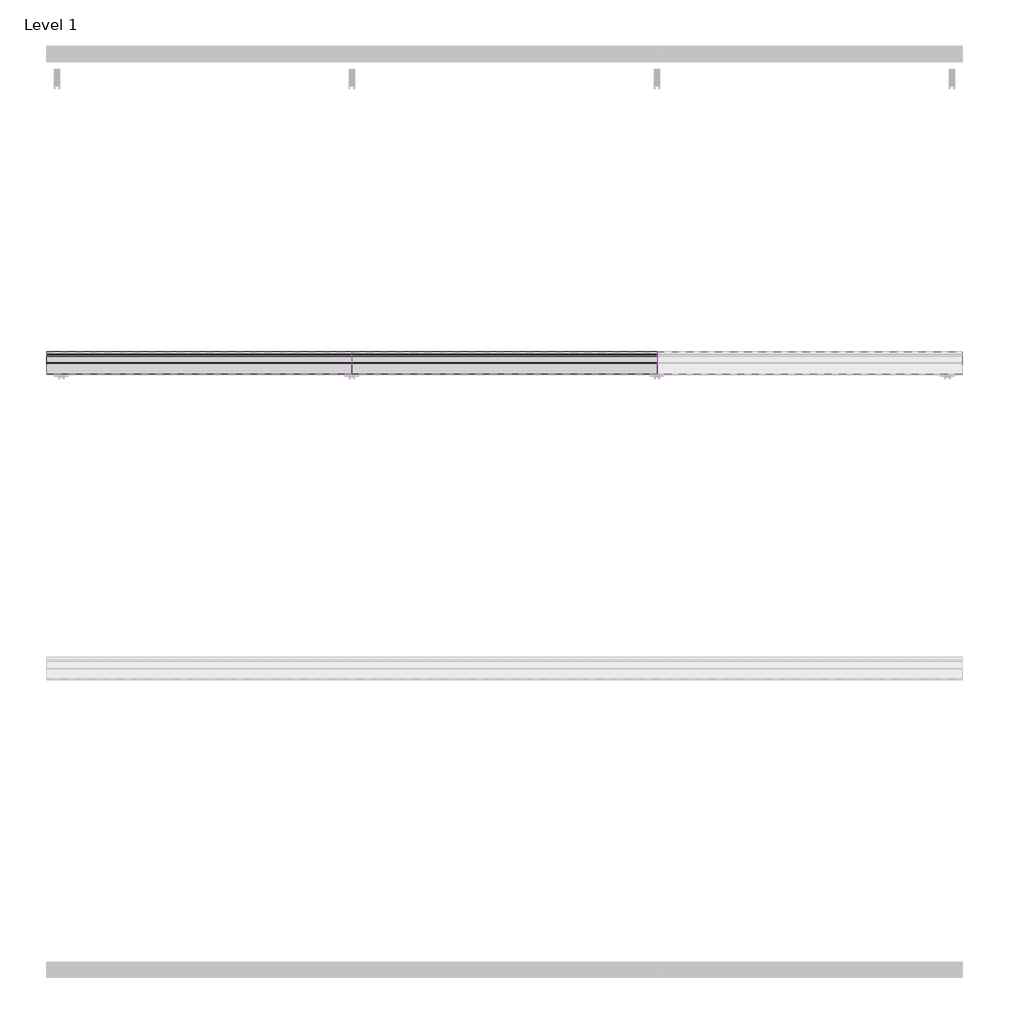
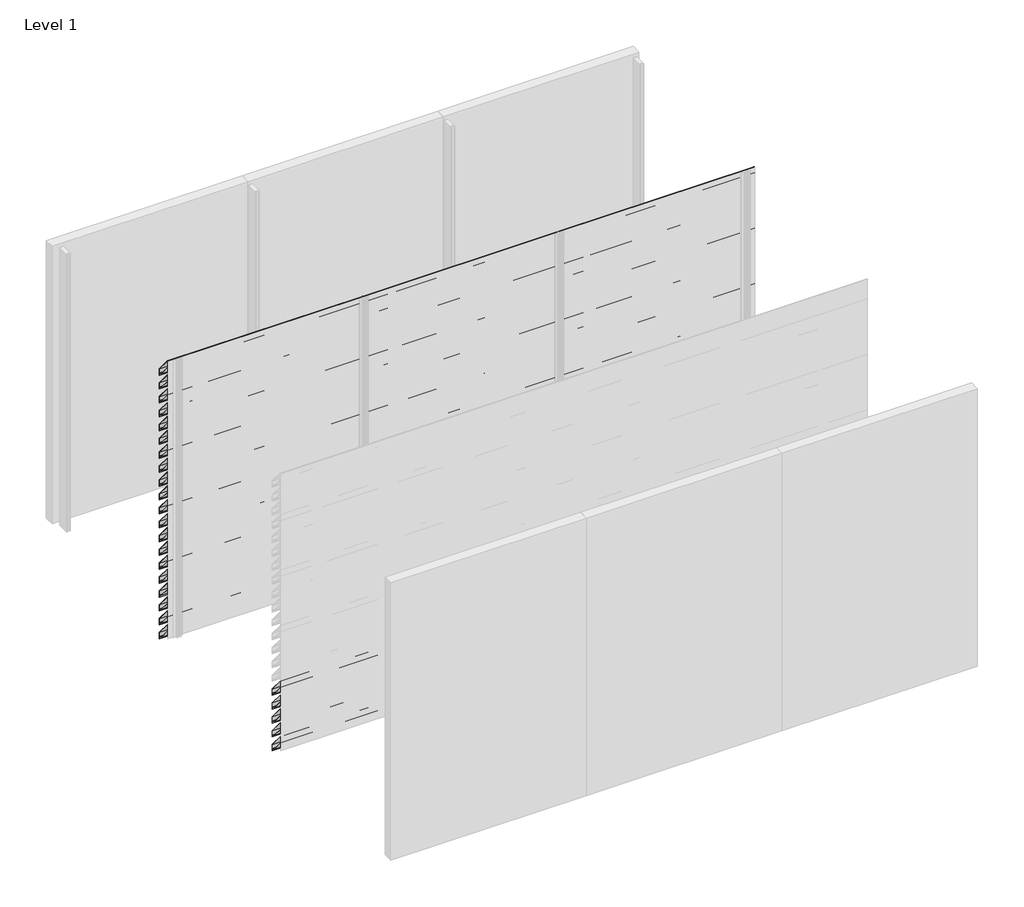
# One storey, part 3 of 16: 56 proxies.
"""IFC4 building model written with IfcOpenShell, lengths in millimetres."""

from ifc_helpers import new_model, si_unit, frame, origin, place, context, project, spatial, polyline, outline, extrude, element, save

model = new_model("IFC4")

# Units and contexts
model_context = context("Model", 3, world=origin())
ifc_project = project(units=[si_unit("LENGTHUNIT", "METRE", prefix="MILLI")], contexts=[model_context])

# Site, building, storey
site = spatial("IfcSite", under=ifc_project)
building = spatial("IfcBuilding", under=site)
storey = spatial("IfcBuildingStorey", under=building, Name="Level 1", Elevation=0.0)

# Proxies
placement = place(None, origin())
element("IfcBuildingElementProxy", 1, Name="Wall Sweeps", at=placement, inside=storey, context=model_context, shape_type="SweptSolid", body=[
    extrude(outline(polyline([(-53851.0, 2830.0), (-53851.0, 2761.0), (-53853.5, 2762.1657691), (-53853.5, 2775.7059843), (-53870.2498671, 2795.6676986), (-53880.9351065, 2795.6676986), (-53998.0, 2935.1802059), (-53998.0, 3000.0), (-53993.6469373, 3000.0), (-53851.0, 2830.0)]), holes=[polyline([(-53996.1, 2998.1), (-53996.1, 2935.8717493), (-53880.049122, 2797.5676986), (-53869.3638825, 2797.5676986), (-53852.9, 2777.9468074), (-53852.9, 2829.3084566), (-53994.5329219, 2998.1), (-53996.1, 2998.1)])]), frame((0.0, 0.0, 0.0), z_axis=(1.0, 0.0, 0.0), x_axis=(0.0, 1.0, 0.0)), (0.0, 0.0, 1.0), 2000.0),
])
element("IfcBuildingElementProxy", 2, Name="Wall Sweeps", at=placement, inside=storey, context=model_context, shape_type="SweptSolid", body=[
    extrude(outline(polyline([(-53851.0, 2680.0), (-53851.0, 2611.0), (-53853.5, 2612.1657691), (-53853.5, 2625.7059843), (-53870.2498671, 2645.6676986), (-53880.9351065, 2645.6676986), (-53998.0, 2785.1802059), (-53998.0, 2850.0), (-53993.6469373, 2850.0), (-53851.0, 2680.0)]), holes=[polyline([(-53996.1, 2848.1), (-53996.1, 2785.8717493), (-53880.049122, 2647.5676986), (-53869.3638825, 2647.5676986), (-53852.9, 2627.9468074), (-53852.9, 2679.3084566), (-53994.5329219, 2848.1), (-53996.1, 2848.1)])]), frame((0.0, 0.0, 0.0), z_axis=(1.0, 0.0, 0.0), x_axis=(0.0, 1.0, 0.0)), (0.0, 0.0, 1.0), 2000.0),
])
element("IfcBuildingElementProxy", 3, Name="Wall Sweeps", at=placement, inside=storey, context=model_context, shape_type="SweptSolid", body=[
    extrude(outline(polyline([(-53851.0, 2530.0), (-53851.0, 2461.0), (-53853.5, 2462.1657691), (-53853.5, 2475.7059843), (-53870.2498671, 2495.6676986), (-53880.9351065, 2495.6676986), (-53998.0, 2635.1802059), (-53998.0, 2700.0), (-53993.6469373, 2700.0), (-53851.0, 2530.0)]), holes=[polyline([(-53996.1, 2698.1), (-53996.1, 2635.8717493), (-53880.049122, 2497.5676986), (-53869.3638825, 2497.5676986), (-53852.9, 2477.9468074), (-53852.9, 2529.3084566), (-53994.5329219, 2698.1), (-53996.1, 2698.1)])]), frame((0.0, 0.0, 0.0), z_axis=(1.0, 0.0, 0.0), x_axis=(0.0, 1.0, 0.0)), (0.0, 0.0, 1.0), 2000.0),
])
element("IfcBuildingElementProxy", 4, Name="Wall Sweeps", at=placement, inside=storey, context=model_context, shape_type="SweptSolid", body=[
    extrude(outline(polyline([(-53851.0, 2380.0), (-53851.0, 2311.0), (-53853.5, 2312.1657691), (-53853.5, 2325.7059843), (-53870.2498671, 2345.6676986), (-53880.9351065, 2345.6676986), (-53998.0, 2485.1802059), (-53998.0, 2550.0), (-53993.6469373, 2550.0), (-53851.0, 2380.0)]), holes=[polyline([(-53996.1, 2548.1), (-53996.1, 2485.8717493), (-53880.049122, 2347.5676986), (-53869.3638825, 2347.5676986), (-53852.9, 2327.9468074), (-53852.9, 2379.3084566), (-53994.5329219, 2548.1), (-53996.1, 2548.1)])]), frame((0.0, 0.0, 0.0), z_axis=(1.0, 0.0, 0.0), x_axis=(0.0, 1.0, 0.0)), (0.0, 0.0, 1.0), 2000.0),
])
element("IfcBuildingElementProxy", 5, Name="Wall Sweeps", at=placement, inside=storey, context=model_context, shape_type="SweptSolid", body=[
    extrude(outline(polyline([(-53851.0, 2230.0), (-53851.0, 2161.0), (-53853.5, 2162.1657691), (-53853.5, 2175.7059843), (-53870.2498671, 2195.6676986), (-53880.9351065, 2195.6676986), (-53998.0, 2335.1802059), (-53998.0, 2400.0), (-53993.6469373, 2400.0), (-53851.0, 2230.0)]), holes=[polyline([(-53996.1, 2398.1), (-53996.1, 2335.8717493), (-53880.049122, 2197.5676986), (-53869.3638825, 2197.5676986), (-53852.9, 2177.9468074), (-53852.9, 2229.3084566), (-53994.5329219, 2398.1), (-53996.1, 2398.1)])]), frame((0.0, 0.0, 0.0), z_axis=(1.0, 0.0, 0.0), x_axis=(0.0, 1.0, 0.0)), (0.0, 0.0, 1.0), 2000.0),
])
element("IfcBuildingElementProxy", 6, Name="Wall Sweeps", at=placement, inside=storey, context=model_context, shape_type="SweptSolid", body=[
    extrude(outline(polyline([(-53851.0, 2080.0), (-53851.0, 2011.0), (-53853.5, 2012.1657691), (-53853.5, 2025.7059843), (-53870.2498671, 2045.6676986), (-53880.9351065, 2045.6676986), (-53998.0, 2185.1802059), (-53998.0, 2250.0), (-53993.6469373, 2250.0), (-53851.0, 2080.0)]), holes=[polyline([(-53996.1, 2248.1), (-53996.1, 2185.8717493), (-53880.049122, 2047.5676986), (-53869.3638825, 2047.5676986), (-53852.9, 2027.9468074), (-53852.9, 2079.3084566), (-53994.5329219, 2248.1), (-53996.1, 2248.1)])]), frame((0.0, 0.0, 0.0), z_axis=(1.0, 0.0, 0.0), x_axis=(0.0, 1.0, 0.0)), (0.0, 0.0, 1.0), 2000.0),
])
element("IfcBuildingElementProxy", 7, Name="Wall Sweeps", at=placement, inside=storey, context=model_context, shape_type="SweptSolid", body=[
    extrude(outline(polyline([(-53851.0, 1930.0), (-53851.0, 1861.0), (-53853.5, 1862.1657691), (-53853.5, 1875.7059843), (-53870.2498671, 1895.6676986), (-53880.9351065, 1895.6676986), (-53998.0, 2035.1802059), (-53998.0, 2100.0), (-53993.6469373, 2100.0), (-53851.0, 1930.0)]), holes=[polyline([(-53996.1, 2098.1), (-53996.1, 2035.8717493), (-53880.049122, 1897.5676986), (-53869.3638825, 1897.5676986), (-53852.9, 1877.9468074), (-53852.9, 1929.3084566), (-53994.5329219, 2098.1), (-53996.1, 2098.1)])]), frame((0.0, 0.0, 0.0), z_axis=(1.0, 0.0, 0.0), x_axis=(0.0, 1.0, 0.0)), (0.0, 0.0, 1.0), 2000.0),
])
element("IfcBuildingElementProxy", 8, Name="Wall Sweeps", at=placement, inside=storey, context=model_context, shape_type="SweptSolid", body=[
    extrude(outline(polyline([(-53851.0, 1780.0), (-53851.0, 1711.0), (-53853.5, 1712.1657691), (-53853.5, 1725.7059843), (-53870.2498671, 1745.6676986), (-53880.9351065, 1745.6676986), (-53998.0, 1885.1802059), (-53998.0, 1950.0), (-53993.6469373, 1950.0), (-53851.0, 1780.0)]), holes=[polyline([(-53996.1, 1948.1), (-53996.1, 1885.8717493), (-53880.049122, 1747.5676986), (-53869.3638825, 1747.5676986), (-53852.9, 1727.9468074), (-53852.9, 1779.3084566), (-53994.5329219, 1948.1), (-53996.1, 1948.1)])]), frame((0.0, 0.0, 0.0), z_axis=(1.0, 0.0, 0.0), x_axis=(0.0, 1.0, 0.0)), (0.0, 0.0, 1.0), 2000.0),
])
element("IfcBuildingElementProxy", 9, Name="Wall Sweeps", at=placement, inside=storey, context=model_context, shape_type="SweptSolid", body=[
    extrude(outline(polyline([(-53851.0, 1630.0), (-53851.0, 1561.0), (-53853.5, 1562.1657691), (-53853.5, 1575.7059843), (-53870.2498671, 1595.6676986), (-53880.9351065, 1595.6676986), (-53998.0, 1735.1802059), (-53998.0, 1800.0), (-53993.6469373, 1800.0), (-53851.0, 1630.0)]), holes=[polyline([(-53996.1, 1798.1), (-53996.1, 1735.8717493), (-53880.049122, 1597.5676986), (-53869.3638825, 1597.5676986), (-53852.9, 1577.9468074), (-53852.9, 1629.3084566), (-53994.5329219, 1798.1), (-53996.1, 1798.1)])]), frame((0.0, 0.0, 0.0), z_axis=(1.0, 0.0, 0.0), x_axis=(0.0, 1.0, 0.0)), (0.0, 0.0, 1.0), 2000.0),
])
element("IfcBuildingElementProxy", 10, Name="Wall Sweeps", at=placement, inside=storey, context=model_context, shape_type="SweptSolid", body=[
    extrude(outline(polyline([(-53851.0, 1480.0), (-53851.0, 1411.0), (-53853.5, 1412.1657691), (-53853.5, 1425.7059843), (-53870.2498671, 1445.6676986), (-53880.9351065, 1445.6676986), (-53998.0, 1585.1802059), (-53998.0, 1650.0), (-53993.6469373, 1650.0), (-53851.0, 1480.0)]), holes=[polyline([(-53996.1, 1648.1), (-53996.1, 1585.8717493), (-53880.049122, 1447.5676986), (-53869.3638825, 1447.5676986), (-53852.9, 1427.9468074), (-53852.9, 1479.3084566), (-53994.5329219, 1648.1), (-53996.1, 1648.1)])]), frame((0.0, 0.0, 0.0), z_axis=(1.0, 0.0, 0.0), x_axis=(0.0, 1.0, 0.0)), (0.0, 0.0, 1.0), 2000.0),
])
element("IfcBuildingElementProxy", 11, Name="Wall Sweeps", at=placement, inside=storey, context=model_context, shape_type="SweptSolid", body=[
    extrude(outline(polyline([(-53851.0, 1330.0), (-53851.0, 1261.0), (-53853.5, 1262.1657691), (-53853.5, 1275.7059843), (-53870.2498671, 1295.6676986), (-53880.9351065, 1295.6676986), (-53998.0, 1435.1802059), (-53998.0, 1500.0), (-53993.6469373, 1500.0), (-53851.0, 1330.0)]), holes=[polyline([(-53996.1, 1498.1), (-53996.1, 1435.8717493), (-53880.049122, 1297.5676986), (-53869.3638825, 1297.5676986), (-53852.9, 1277.9468074), (-53852.9, 1329.3084566), (-53994.5329219, 1498.1), (-53996.1, 1498.1)])]), frame((0.0, 0.0, 0.0), z_axis=(1.0, 0.0, 0.0), x_axis=(0.0, 1.0, 0.0)), (0.0, 0.0, 1.0), 2000.0),
])
element("IfcBuildingElementProxy", 12, Name="Wall Sweeps", at=placement, inside=storey, context=model_context, shape_type="SweptSolid", body=[
    extrude(outline(polyline([(-53851.0, 1180.0), (-53851.0, 1111.0), (-53853.5, 1112.1657691), (-53853.5, 1125.7059843), (-53870.2498671, 1145.6676986), (-53880.9351065, 1145.6676986), (-53998.0, 1285.1802059), (-53998.0, 1350.0), (-53993.6469373, 1350.0), (-53851.0, 1180.0)]), holes=[polyline([(-53996.1, 1348.1), (-53996.1, 1285.8717493), (-53880.049122, 1147.5676986), (-53869.3638825, 1147.5676986), (-53852.9, 1127.9468074), (-53852.9, 1179.3084566), (-53994.5329219, 1348.1), (-53996.1, 1348.1)])]), frame((0.0, 0.0, 0.0), z_axis=(1.0, 0.0, 0.0), x_axis=(0.0, 1.0, 0.0)), (0.0, 0.0, 1.0), 2000.0),
])
element("IfcBuildingElementProxy", 13, Name="Wall Sweeps", at=placement, inside=storey, context=model_context, shape_type="SweptSolid", body=[
    extrude(outline(polyline([(-53851.0, 1030.0), (-53851.0, 961.0), (-53853.5, 962.1657691), (-53853.5, 975.7059843), (-53870.2498671, 995.6676986), (-53880.9351065, 995.6676986), (-53998.0, 1135.1802059), (-53998.0, 1200.0), (-53993.6469373, 1200.0), (-53851.0, 1030.0)]), holes=[polyline([(-53996.1, 1198.1), (-53996.1, 1135.8717493), (-53880.049122, 997.5676986), (-53869.3638825, 997.5676986), (-53852.9, 977.9468074), (-53852.9, 1029.3084566), (-53994.5329219, 1198.1), (-53996.1, 1198.1)])]), frame((0.0, 0.0, 0.0), z_axis=(1.0, 0.0, 0.0), x_axis=(0.0, 1.0, 0.0)), (0.0, 0.0, 1.0), 2000.0),
])
element("IfcBuildingElementProxy", 14, Name="Wall Sweeps", at=placement, inside=storey, context=model_context, shape_type="SweptSolid", body=[
    extrude(outline(polyline([(-53851.0, 880.0), (-53851.0, 811.0), (-53853.5, 812.1657691), (-53853.5, 825.7059843), (-53870.2498671, 845.6676986), (-53880.9351065, 845.6676986), (-53998.0, 985.1802059), (-53998.0, 1050.0), (-53993.6469373, 1050.0), (-53851.0, 880.0)]), holes=[polyline([(-53996.1, 1048.1), (-53996.1, 985.8717493), (-53880.049122, 847.5676986), (-53869.3638825, 847.5676986), (-53852.9, 827.9468074), (-53852.9, 879.3084566), (-53994.5329219, 1048.1), (-53996.1, 1048.1)])]), frame((0.0, 0.0, 0.0), z_axis=(1.0, 0.0, 0.0), x_axis=(0.0, 1.0, 0.0)), (0.0, 0.0, 1.0), 2000.0),
])
element("IfcBuildingElementProxy", 15, Name="Wall Sweeps", at=placement, inside=storey, context=model_context, shape_type="SweptSolid", body=[
    extrude(outline(polyline([(-53851.0, 730.0), (-53851.0, 661.0), (-53853.5, 662.1657691), (-53853.5, 675.7059843), (-53870.2498671, 695.6676986), (-53880.9351065, 695.6676986), (-53998.0, 835.1802059), (-53998.0, 900.0), (-53993.6469373, 900.0), (-53851.0, 730.0)]), holes=[polyline([(-53996.1, 898.1), (-53996.1, 835.8717493), (-53880.049122, 697.5676986), (-53869.3638825, 697.5676986), (-53852.9, 677.9468074), (-53852.9, 729.3084566), (-53994.5329219, 898.1), (-53996.1, 898.1)])]), frame((0.0, 0.0, 0.0), z_axis=(1.0, 0.0, 0.0), x_axis=(0.0, 1.0, 0.0)), (0.0, 0.0, 1.0), 2000.0),
])
element("IfcBuildingElementProxy", 16, Name="Wall Sweeps", at=placement, inside=storey, context=model_context, shape_type="SweptSolid", body=[
    extrude(outline(polyline([(-53851.0, 580.0), (-53851.0, 511.0), (-53853.5, 512.1657691), (-53853.5, 525.7059843), (-53870.2498671, 545.6676986), (-53880.9351065, 545.6676986), (-53998.0, 685.1802059), (-53998.0, 750.0), (-53993.6469373, 750.0), (-53851.0, 580.0)]), holes=[polyline([(-53996.1, 748.1), (-53996.1, 685.8717493), (-53880.049122, 547.5676986), (-53869.3638825, 547.5676986), (-53852.9, 527.9468074), (-53852.9, 579.3084566), (-53994.5329219, 748.1), (-53996.1, 748.1)])]), frame((0.0, 0.0, 0.0), z_axis=(1.0, 0.0, 0.0), x_axis=(0.0, 1.0, 0.0)), (0.0, 0.0, 1.0), 2000.0),
])
element("IfcBuildingElementProxy", 17, Name="Wall Sweeps", at=placement, inside=storey, context=model_context, shape_type="SweptSolid", body=[
    extrude(outline(polyline([(-53851.0, 430.0), (-53851.0, 361.0), (-53853.5, 362.1657691), (-53853.5, 375.7059843), (-53870.2498671, 395.6676986), (-53880.9351065, 395.6676986), (-53998.0, 535.1802059), (-53998.0, 600.0), (-53993.6469373, 600.0), (-53851.0, 430.0)]), holes=[polyline([(-53996.1, 598.1), (-53996.1, 535.8717493), (-53880.049122, 397.5676986), (-53869.3638825, 397.5676986), (-53852.9, 377.9468074), (-53852.9, 429.3084566), (-53994.5329219, 598.1), (-53996.1, 598.1)])]), frame((0.0, 0.0, 0.0), z_axis=(1.0, 0.0, 0.0), x_axis=(0.0, 1.0, 0.0)), (0.0, 0.0, 1.0), 2000.0),
])
element("IfcBuildingElementProxy", 18, Name="Wall Sweeps", at=placement, inside=storey, context=model_context, shape_type="SweptSolid", body=[
    extrude(outline(polyline([(-53851.0, 280.0), (-53851.0, 211.0), (-53853.5, 212.1657691), (-53853.5, 225.7059843), (-53870.2498671, 245.6676986), (-53880.9351065, 245.6676986), (-53998.0, 385.1802059), (-53998.0, 450.0), (-53993.6469373, 450.0), (-53851.0, 280.0)]), holes=[polyline([(-53996.1, 448.1), (-53996.1, 385.8717493), (-53880.049122, 247.5676986), (-53869.3638825, 247.5676986), (-53852.9, 227.9468074), (-53852.9, 279.3084566), (-53994.5329219, 448.1), (-53996.1, 448.1)])]), frame((0.0, 0.0, 0.0), z_axis=(1.0, 0.0, 0.0), x_axis=(0.0, 1.0, 0.0)), (0.0, 0.0, 1.0), 2000.0),
])
element("IfcBuildingElementProxy", 19, Name="Wall Sweeps", at=placement, inside=storey, context=model_context, shape_type="SweptSolid", body=[
    extrude(outline(polyline([(-53851.0, 130.0), (-53851.0, 61.0), (-53853.5, 62.1657691), (-53853.5, 75.7059843), (-53870.2498671, 95.6676986), (-53880.9351065, 95.6676986), (-53998.0, 235.1802059), (-53998.0, 300.0), (-53993.6469373, 300.0), (-53851.0, 130.0)]), holes=[polyline([(-53996.1, 298.1), (-53996.1, 235.8717493), (-53880.049122, 97.5676986), (-53869.3638825, 97.5676986), (-53852.9, 77.9468074), (-53852.9, 129.3084566), (-53994.5329219, 298.1), (-53996.1, 298.1)])]), frame((0.0, 0.0, 0.0), z_axis=(1.0, 0.0, 0.0), x_axis=(0.0, 1.0, 0.0)), (0.0, 0.0, 1.0), 2000.0),
])
element("IfcBuildingElementProxy", 20, Name="Wall Sweeps", at=placement, inside=storey, context=model_context, shape_type="SweptSolid", body=[
    extrude(outline(polyline([(-53851.0, -20.0), (-53851.0, -89.0), (-53853.5, -87.8342309), (-53853.5, -74.2940157), (-53870.2498671, -54.3323014), (-53880.9351065, -54.3323014), (-53998.0, 85.1802059), (-53998.0, 150.0), (-53993.6469373, 150.0), (-53851.0, -20.0)]), holes=[polyline([(-53996.1, 148.1), (-53996.1, 85.8717493), (-53880.049122, -52.4323014), (-53869.3638825, -52.4323014), (-53852.9, -72.0531926), (-53852.9, -20.6915434), (-53994.5329219, 148.1), (-53996.1, 148.1)])]), frame((0.0, 0.0, 0.0), z_axis=(1.0, 0.0, 0.0), x_axis=(0.0, 1.0, 0.0)), (0.0, 0.0, 1.0), 2000.0),
])
element("IfcBuildingElementProxy", 21, Name="Wall Sweeps", at=placement, inside=storey, context=model_context, shape_type="SweptSolid", body=[
    extrude(outline(polyline([(-53851.0, 2830.0), (-53851.0, 2761.0), (-53853.5, 2762.1657691), (-53853.5, 2775.7059843), (-53870.2498671, 2795.6676986), (-53880.9351065, 2795.6676986), (-53998.0, 2935.1802059), (-53998.0, 3000.0), (-53993.6469373, 3000.0), (-53851.0, 2830.0)]), holes=[polyline([(-53996.1, 2998.1), (-53996.1, 2935.8717493), (-53880.049122, 2797.5676986), (-53869.3638825, 2797.5676986), (-53852.9, 2777.9468074), (-53852.9, 2829.3084566), (-53994.5329219, 2998.1), (-53996.1, 2998.1)])]), frame((2000.0, 0.0, 0.0), z_axis=(1.0, 0.0, 0.0), x_axis=(0.0, 1.0, 0.0)), (0.0, 0.0, 1.0), 2000.0),
])
element("IfcBuildingElementProxy", 22, Name="Wall Sweeps", at=placement, inside=storey, context=model_context, shape_type="SweptSolid", body=[
    extrude(outline(polyline([(-53851.0, 2680.0), (-53851.0, 2611.0), (-53853.5, 2612.1657691), (-53853.5, 2625.7059843), (-53870.2498671, 2645.6676986), (-53880.9351065, 2645.6676986), (-53998.0, 2785.1802059), (-53998.0, 2850.0), (-53993.6469373, 2850.0), (-53851.0, 2680.0)]), holes=[polyline([(-53996.1, 2848.1), (-53996.1, 2785.8717493), (-53880.049122, 2647.5676986), (-53869.3638825, 2647.5676986), (-53852.9, 2627.9468074), (-53852.9, 2679.3084566), (-53994.5329219, 2848.1), (-53996.1, 2848.1)])]), frame((2000.0, 0.0, 0.0), z_axis=(1.0, 0.0, 0.0), x_axis=(0.0, 1.0, 0.0)), (0.0, 0.0, 1.0), 2000.0),
])
element("IfcBuildingElementProxy", 23, Name="Wall Sweeps", at=placement, inside=storey, context=model_context, shape_type="SweptSolid", body=[
    extrude(outline(polyline([(-53851.0, 2530.0), (-53851.0, 2461.0), (-53853.5, 2462.1657691), (-53853.5, 2475.7059843), (-53870.2498671, 2495.6676986), (-53880.9351065, 2495.6676986), (-53998.0, 2635.1802059), (-53998.0, 2700.0), (-53993.6469373, 2700.0), (-53851.0, 2530.0)]), holes=[polyline([(-53996.1, 2698.1), (-53996.1, 2635.8717493), (-53880.049122, 2497.5676986), (-53869.3638825, 2497.5676986), (-53852.9, 2477.9468074), (-53852.9, 2529.3084566), (-53994.5329219, 2698.1), (-53996.1, 2698.1)])]), frame((2000.0, 0.0, 0.0), z_axis=(1.0, 0.0, 0.0), x_axis=(0.0, 1.0, 0.0)), (0.0, 0.0, 1.0), 2000.0),
])
element("IfcBuildingElementProxy", 24, Name="Wall Sweeps", at=placement, inside=storey, context=model_context, shape_type="SweptSolid", body=[
    extrude(outline(polyline([(-53851.0, 2380.0), (-53851.0, 2311.0), (-53853.5, 2312.1657691), (-53853.5, 2325.7059843), (-53870.2498671, 2345.6676986), (-53880.9351065, 2345.6676986), (-53998.0, 2485.1802059), (-53998.0, 2550.0), (-53993.6469373, 2550.0), (-53851.0, 2380.0)]), holes=[polyline([(-53996.1, 2548.1), (-53996.1, 2485.8717493), (-53880.049122, 2347.5676986), (-53869.3638825, 2347.5676986), (-53852.9, 2327.9468074), (-53852.9, 2379.3084566), (-53994.5329219, 2548.1), (-53996.1, 2548.1)])]), frame((2000.0, 0.0, 0.0), z_axis=(1.0, 0.0, 0.0), x_axis=(0.0, 1.0, 0.0)), (0.0, 0.0, 1.0), 2000.0),
])
element("IfcBuildingElementProxy", 25, Name="Wall Sweeps", at=placement, inside=storey, context=model_context, shape_type="SweptSolid", body=[
    extrude(outline(polyline([(-53851.0, 2230.0), (-53851.0, 2161.0), (-53853.5, 2162.1657691), (-53853.5, 2175.7059843), (-53870.2498671, 2195.6676986), (-53880.9351065, 2195.6676986), (-53998.0, 2335.1802059), (-53998.0, 2400.0), (-53993.6469373, 2400.0), (-53851.0, 2230.0)]), holes=[polyline([(-53996.1, 2398.1), (-53996.1, 2335.8717493), (-53880.049122, 2197.5676986), (-53869.3638825, 2197.5676986), (-53852.9, 2177.9468074), (-53852.9, 2229.3084566), (-53994.5329219, 2398.1), (-53996.1, 2398.1)])]), frame((2000.0, 0.0, 0.0), z_axis=(1.0, 0.0, 0.0), x_axis=(0.0, 1.0, 0.0)), (0.0, 0.0, 1.0), 2000.0),
])
element("IfcBuildingElementProxy", 26, Name="Wall Sweeps", at=placement, inside=storey, context=model_context, shape_type="SweptSolid", body=[
    extrude(outline(polyline([(-53851.0, 2080.0), (-53851.0, 2011.0), (-53853.5, 2012.1657691), (-53853.5, 2025.7059843), (-53870.2498671, 2045.6676986), (-53880.9351065, 2045.6676986), (-53998.0, 2185.1802059), (-53998.0, 2250.0), (-53993.6469373, 2250.0), (-53851.0, 2080.0)]), holes=[polyline([(-53996.1, 2248.1), (-53996.1, 2185.8717493), (-53880.049122, 2047.5676986), (-53869.3638825, 2047.5676986), (-53852.9, 2027.9468074), (-53852.9, 2079.3084566), (-53994.5329219, 2248.1), (-53996.1, 2248.1)])]), frame((2000.0, 0.0, 0.0), z_axis=(1.0, 0.0, 0.0), x_axis=(0.0, 1.0, 0.0)), (0.0, 0.0, 1.0), 2000.0),
])
element("IfcBuildingElementProxy", 27, Name="Wall Sweeps", at=placement, inside=storey, context=model_context, shape_type="SweptSolid", body=[
    extrude(outline(polyline([(-53851.0, 1930.0), (-53851.0, 1861.0), (-53853.5, 1862.1657691), (-53853.5, 1875.7059843), (-53870.2498671, 1895.6676986), (-53880.9351065, 1895.6676986), (-53998.0, 2035.1802059), (-53998.0, 2100.0), (-53993.6469373, 2100.0), (-53851.0, 1930.0)]), holes=[polyline([(-53996.1, 2098.1), (-53996.1, 2035.8717493), (-53880.049122, 1897.5676986), (-53869.3638825, 1897.5676986), (-53852.9, 1877.9468074), (-53852.9, 1929.3084566), (-53994.5329219, 2098.1), (-53996.1, 2098.1)])]), frame((2000.0, 0.0, 0.0), z_axis=(1.0, 0.0, 0.0), x_axis=(0.0, 1.0, 0.0)), (0.0, 0.0, 1.0), 2000.0),
])
element("IfcBuildingElementProxy", 28, Name="Wall Sweeps", at=placement, inside=storey, context=model_context, shape_type="SweptSolid", body=[
    extrude(outline(polyline([(-53851.0, 1780.0), (-53851.0, 1711.0), (-53853.5, 1712.1657691), (-53853.5, 1725.7059843), (-53870.2498671, 1745.6676986), (-53880.9351065, 1745.6676986), (-53998.0, 1885.1802059), (-53998.0, 1950.0), (-53993.6469373, 1950.0), (-53851.0, 1780.0)]), holes=[polyline([(-53996.1, 1948.1), (-53996.1, 1885.8717493), (-53880.049122, 1747.5676986), (-53869.3638825, 1747.5676986), (-53852.9, 1727.9468074), (-53852.9, 1779.3084566), (-53994.5329219, 1948.1), (-53996.1, 1948.1)])]), frame((2000.0, 0.0, 0.0), z_axis=(1.0, 0.0, 0.0), x_axis=(0.0, 1.0, 0.0)), (0.0, 0.0, 1.0), 2000.0),
])
element("IfcBuildingElementProxy", 29, Name="Wall Sweeps", at=placement, inside=storey, context=model_context, shape_type="SweptSolid", body=[
    extrude(outline(polyline([(-53851.0, 1630.0), (-53851.0, 1561.0), (-53853.5, 1562.1657691), (-53853.5, 1575.7059843), (-53870.2498671, 1595.6676986), (-53880.9351065, 1595.6676986), (-53998.0, 1735.1802059), (-53998.0, 1800.0), (-53993.6469373, 1800.0), (-53851.0, 1630.0)]), holes=[polyline([(-53996.1, 1798.1), (-53996.1, 1735.8717493), (-53880.049122, 1597.5676986), (-53869.3638825, 1597.5676986), (-53852.9, 1577.9468074), (-53852.9, 1629.3084566), (-53994.5329219, 1798.1), (-53996.1, 1798.1)])]), frame((2000.0, 0.0, 0.0), z_axis=(1.0, 0.0, 0.0), x_axis=(0.0, 1.0, 0.0)), (0.0, 0.0, 1.0), 2000.0),
])
element("IfcBuildingElementProxy", 30, Name="Wall Sweeps", at=placement, inside=storey, context=model_context, shape_type="SweptSolid", body=[
    extrude(outline(polyline([(-53851.0, 1480.0), (-53851.0, 1411.0), (-53853.5, 1412.1657691), (-53853.5, 1425.7059843), (-53870.2498671, 1445.6676986), (-53880.9351065, 1445.6676986), (-53998.0, 1585.1802059), (-53998.0, 1650.0), (-53993.6469373, 1650.0), (-53851.0, 1480.0)]), holes=[polyline([(-53996.1, 1648.1), (-53996.1, 1585.8717493), (-53880.049122, 1447.5676986), (-53869.3638825, 1447.5676986), (-53852.9, 1427.9468074), (-53852.9, 1479.3084566), (-53994.5329219, 1648.1), (-53996.1, 1648.1)])]), frame((2000.0, 0.0, 0.0), z_axis=(1.0, 0.0, 0.0), x_axis=(0.0, 1.0, 0.0)), (0.0, 0.0, 1.0), 2000.0),
])
element("IfcBuildingElementProxy", 31, Name="Wall Sweeps", at=placement, inside=storey, context=model_context, shape_type="SweptSolid", body=[
    extrude(outline(polyline([(-53851.0, 1330.0), (-53851.0, 1261.0), (-53853.5, 1262.1657691), (-53853.5, 1275.7059843), (-53870.2498671, 1295.6676986), (-53880.9351065, 1295.6676986), (-53998.0, 1435.1802059), (-53998.0, 1500.0), (-53993.6469373, 1500.0), (-53851.0, 1330.0)]), holes=[polyline([(-53996.1, 1498.1), (-53996.1, 1435.8717493), (-53880.049122, 1297.5676986), (-53869.3638825, 1297.5676986), (-53852.9, 1277.9468074), (-53852.9, 1329.3084566), (-53994.5329219, 1498.1), (-53996.1, 1498.1)])]), frame((2000.0, 0.0, 0.0), z_axis=(1.0, 0.0, 0.0), x_axis=(0.0, 1.0, 0.0)), (0.0, 0.0, 1.0), 2000.0),
])
element("IfcBuildingElementProxy", 32, Name="Wall Sweeps", at=placement, inside=storey, context=model_context, shape_type="SweptSolid", body=[
    extrude(outline(polyline([(-53851.0, 1180.0), (-53851.0, 1111.0), (-53853.5, 1112.1657691), (-53853.5, 1125.7059843), (-53870.2498671, 1145.6676986), (-53880.9351065, 1145.6676986), (-53998.0, 1285.1802059), (-53998.0, 1350.0), (-53993.6469373, 1350.0), (-53851.0, 1180.0)]), holes=[polyline([(-53996.1, 1348.1), (-53996.1, 1285.8717493), (-53880.049122, 1147.5676986), (-53869.3638825, 1147.5676986), (-53852.9, 1127.9468074), (-53852.9, 1179.3084566), (-53994.5329219, 1348.1), (-53996.1, 1348.1)])]), frame((2000.0, 0.0, 0.0), z_axis=(1.0, 0.0, 0.0), x_axis=(0.0, 1.0, 0.0)), (0.0, 0.0, 1.0), 2000.0),
])
element("IfcBuildingElementProxy", 33, Name="Wall Sweeps", at=placement, inside=storey, context=model_context, shape_type="SweptSolid", body=[
    extrude(outline(polyline([(-53851.0, 1030.0), (-53851.0, 961.0), (-53853.5, 962.1657691), (-53853.5, 975.7059843), (-53870.2498671, 995.6676986), (-53880.9351065, 995.6676986), (-53998.0, 1135.1802059), (-53998.0, 1200.0), (-53993.6469373, 1200.0), (-53851.0, 1030.0)]), holes=[polyline([(-53996.1, 1198.1), (-53996.1, 1135.8717493), (-53880.049122, 997.5676986), (-53869.3638825, 997.5676986), (-53852.9, 977.9468074), (-53852.9, 1029.3084566), (-53994.5329219, 1198.1), (-53996.1, 1198.1)])]), frame((2000.0, 0.0, 0.0), z_axis=(1.0, 0.0, 0.0), x_axis=(0.0, 1.0, 0.0)), (0.0, 0.0, 1.0), 2000.0),
])
element("IfcBuildingElementProxy", 34, Name="Wall Sweeps", at=placement, inside=storey, context=model_context, shape_type="SweptSolid", body=[
    extrude(outline(polyline([(-53851.0, 880.0), (-53851.0, 811.0), (-53853.5, 812.1657691), (-53853.5, 825.7059843), (-53870.2498671, 845.6676986), (-53880.9351065, 845.6676986), (-53998.0, 985.1802059), (-53998.0, 1050.0), (-53993.6469373, 1050.0), (-53851.0, 880.0)]), holes=[polyline([(-53996.1, 1048.1), (-53996.1, 985.8717493), (-53880.049122, 847.5676986), (-53869.3638825, 847.5676986), (-53852.9, 827.9468074), (-53852.9, 879.3084566), (-53994.5329219, 1048.1), (-53996.1, 1048.1)])]), frame((2000.0, 0.0, 0.0), z_axis=(1.0, 0.0, 0.0), x_axis=(0.0, 1.0, 0.0)), (0.0, 0.0, 1.0), 2000.0),
])
element("IfcBuildingElementProxy", 35, Name="Wall Sweeps", at=placement, inside=storey, context=model_context, shape_type="SweptSolid", body=[
    extrude(outline(polyline([(-53851.0, 730.0), (-53851.0, 661.0), (-53853.5, 662.1657691), (-53853.5, 675.7059843), (-53870.2498671, 695.6676986), (-53880.9351065, 695.6676986), (-53998.0, 835.1802059), (-53998.0, 900.0), (-53993.6469373, 900.0), (-53851.0, 730.0)]), holes=[polyline([(-53996.1, 898.1), (-53996.1, 835.8717493), (-53880.049122, 697.5676986), (-53869.3638825, 697.5676986), (-53852.9, 677.9468074), (-53852.9, 729.3084566), (-53994.5329219, 898.1), (-53996.1, 898.1)])]), frame((2000.0, 0.0, 0.0), z_axis=(1.0, 0.0, 0.0), x_axis=(0.0, 1.0, 0.0)), (0.0, 0.0, 1.0), 2000.0),
])
element("IfcBuildingElementProxy", 36, Name="Wall Sweeps", at=placement, inside=storey, context=model_context, shape_type="SweptSolid", body=[
    extrude(outline(polyline([(-53851.0, 580.0), (-53851.0, 511.0), (-53853.5, 512.1657691), (-53853.5, 525.7059843), (-53870.2498671, 545.6676986), (-53880.9351065, 545.6676986), (-53998.0, 685.1802059), (-53998.0, 750.0), (-53993.6469373, 750.0), (-53851.0, 580.0)]), holes=[polyline([(-53996.1, 748.1), (-53996.1, 685.8717493), (-53880.049122, 547.5676986), (-53869.3638825, 547.5676986), (-53852.9, 527.9468074), (-53852.9, 579.3084566), (-53994.5329219, 748.1), (-53996.1, 748.1)])]), frame((2000.0, 0.0, 0.0), z_axis=(1.0, 0.0, 0.0), x_axis=(0.0, 1.0, 0.0)), (0.0, 0.0, 1.0), 2000.0),
])
element("IfcBuildingElementProxy", 37, Name="Wall Sweeps", at=placement, inside=storey, context=model_context, shape_type="SweptSolid", body=[
    extrude(outline(polyline([(-53851.0, 430.0), (-53851.0, 361.0), (-53853.5, 362.1657691), (-53853.5, 375.7059843), (-53870.2498671, 395.6676986), (-53880.9351065, 395.6676986), (-53998.0, 535.1802059), (-53998.0, 600.0), (-53993.6469373, 600.0), (-53851.0, 430.0)]), holes=[polyline([(-53996.1, 598.1), (-53996.1, 535.8717493), (-53880.049122, 397.5676986), (-53869.3638825, 397.5676986), (-53852.9, 377.9468074), (-53852.9, 429.3084566), (-53994.5329219, 598.1), (-53996.1, 598.1)])]), frame((2000.0, 0.0, 0.0), z_axis=(1.0, 0.0, 0.0), x_axis=(0.0, 1.0, 0.0)), (0.0, 0.0, 1.0), 2000.0),
])
element("IfcBuildingElementProxy", 38, Name="Wall Sweeps", at=placement, inside=storey, context=model_context, shape_type="SweptSolid", body=[
    extrude(outline(polyline([(-53851.0, 280.0), (-53851.0, 211.0), (-53853.5, 212.1657691), (-53853.5, 225.7059843), (-53870.2498671, 245.6676986), (-53880.9351065, 245.6676986), (-53998.0, 385.1802059), (-53998.0, 450.0), (-53993.6469373, 450.0), (-53851.0, 280.0)]), holes=[polyline([(-53996.1, 448.1), (-53996.1, 385.8717493), (-53880.049122, 247.5676986), (-53869.3638825, 247.5676986), (-53852.9, 227.9468074), (-53852.9, 279.3084566), (-53994.5329219, 448.1), (-53996.1, 448.1)])]), frame((2000.0, 0.0, 0.0), z_axis=(1.0, 0.0, 0.0), x_axis=(0.0, 1.0, 0.0)), (0.0, 0.0, 1.0), 2000.0),
])
element("IfcBuildingElementProxy", 39, Name="Wall Sweeps", at=placement, inside=storey, context=model_context, shape_type="SweptSolid", body=[
    extrude(outline(polyline([(-53851.0, 130.0), (-53851.0, 61.0), (-53853.5, 62.1657691), (-53853.5, 75.7059843), (-53870.2498671, 95.6676986), (-53880.9351065, 95.6676986), (-53998.0, 235.1802059), (-53998.0, 300.0), (-53993.6469373, 300.0), (-53851.0, 130.0)]), holes=[polyline([(-53996.1, 298.1), (-53996.1, 235.8717493), (-53880.049122, 97.5676986), (-53869.3638825, 97.5676986), (-53852.9, 77.9468074), (-53852.9, 129.3084566), (-53994.5329219, 298.1), (-53996.1, 298.1)])]), frame((2000.0, 0.0, 0.0), z_axis=(1.0, 0.0, 0.0), x_axis=(0.0, 1.0, 0.0)), (0.0, 0.0, 1.0), 2000.0),
])
element("IfcBuildingElementProxy", 40, Name="Wall Sweeps", at=placement, inside=storey, context=model_context, shape_type="SweptSolid", body=[
    extrude(outline(polyline([(-53851.0, -20.0), (-53851.0, -89.0), (-53853.5, -87.8342309), (-53853.5, -74.2940157), (-53870.2498671, -54.3323014), (-53880.9351065, -54.3323014), (-53998.0, 85.1802059), (-53998.0, 150.0), (-53993.6469373, 150.0), (-53851.0, -20.0)]), holes=[polyline([(-53996.1, 148.1), (-53996.1, 85.8717493), (-53880.049122, -52.4323014), (-53869.3638825, -52.4323014), (-53852.9, -72.0531926), (-53852.9, -20.6915434), (-53994.5329219, 148.1), (-53996.1, 148.1)])]), frame((2000.0, 0.0, 0.0), z_axis=(1.0, 0.0, 0.0), x_axis=(0.0, 1.0, 0.0)), (0.0, 0.0, 1.0), 2000.0),
])
element("IfcBuildingElementProxy", 41, Name="Wall Sweeps", at=placement, inside=storey, context=model_context, shape_type="SweptSolid", body=[
    extrude(outline(polyline([(-53851.0, 2830.0), (-53851.0, 2761.0), (-53853.5, 2762.1657691), (-53853.5, 2775.7059843), (-53870.2498671, 2795.6676986), (-53880.9351065, 2795.6676986), (-53998.0, 2935.1802059), (-53998.0, 3000.0), (-53993.6469373, 3000.0), (-53851.0, 2830.0)]), holes=[polyline([(-53996.1, 2998.1), (-53996.1, 2935.8717493), (-53880.049122, 2797.5676986), (-53869.3638825, 2797.5676986), (-53852.9, 2777.9468074), (-53852.9, 2829.3084566), (-53994.5329219, 2998.1), (-53996.1, 2998.1)])]), frame((4000.0, 0.0, 0.0), z_axis=(1.0, 0.0, 0.0), x_axis=(0.0, 1.0, 0.0)), (0.0, 0.0, 1.0), 2000.0),
])
element("IfcBuildingElementProxy", 42, Name="Wall Sweeps", at=placement, inside=storey, context=model_context, shape_type="SweptSolid", body=[
    extrude(outline(polyline([(-53851.0, 2680.0), (-53851.0, 2611.0), (-53853.5, 2612.1657691), (-53853.5, 2625.7059843), (-53870.2498671, 2645.6676986), (-53880.9351065, 2645.6676986), (-53998.0, 2785.1802059), (-53998.0, 2850.0), (-53993.6469373, 2850.0), (-53851.0, 2680.0)]), holes=[polyline([(-53996.1, 2848.1), (-53996.1, 2785.8717493), (-53880.049122, 2647.5676986), (-53869.3638825, 2647.5676986), (-53852.9, 2627.9468074), (-53852.9, 2679.3084566), (-53994.5329219, 2848.1), (-53996.1, 2848.1)])]), frame((4000.0, 0.0, 0.0), z_axis=(1.0, 0.0, 0.0), x_axis=(0.0, 1.0, 0.0)), (0.0, 0.0, 1.0), 2000.0),
])
element("IfcBuildingElementProxy", 43, Name="Wall Sweeps", at=placement, inside=storey, context=model_context, shape_type="SweptSolid", body=[
    extrude(outline(polyline([(-53851.0, 2530.0), (-53851.0, 2461.0), (-53853.5, 2462.1657691), (-53853.5, 2475.7059843), (-53870.2498671, 2495.6676986), (-53880.9351065, 2495.6676986), (-53998.0, 2635.1802059), (-53998.0, 2700.0), (-53993.6469373, 2700.0), (-53851.0, 2530.0)]), holes=[polyline([(-53996.1, 2698.1), (-53996.1, 2635.8717493), (-53880.049122, 2497.5676986), (-53869.3638825, 2497.5676986), (-53852.9, 2477.9468074), (-53852.9, 2529.3084566), (-53994.5329219, 2698.1), (-53996.1, 2698.1)])]), frame((4000.0, 0.0, 0.0), z_axis=(1.0, 0.0, 0.0), x_axis=(0.0, 1.0, 0.0)), (0.0, 0.0, 1.0), 2000.0),
])
element("IfcBuildingElementProxy", 44, Name="Wall Sweeps", at=placement, inside=storey, context=model_context, shape_type="SweptSolid", body=[
    extrude(outline(polyline([(-53851.0, 2380.0), (-53851.0, 2311.0), (-53853.5, 2312.1657691), (-53853.5, 2325.7059843), (-53870.2498671, 2345.6676986), (-53880.9351065, 2345.6676986), (-53998.0, 2485.1802059), (-53998.0, 2550.0), (-53993.6469373, 2550.0), (-53851.0, 2380.0)]), holes=[polyline([(-53996.1, 2548.1), (-53996.1, 2485.8717493), (-53880.049122, 2347.5676986), (-53869.3638825, 2347.5676986), (-53852.9, 2327.9468074), (-53852.9, 2379.3084566), (-53994.5329219, 2548.1), (-53996.1, 2548.1)])]), frame((4000.0, 0.0, 0.0), z_axis=(1.0, 0.0, 0.0), x_axis=(0.0, 1.0, 0.0)), (0.0, 0.0, 1.0), 2000.0),
])
element("IfcBuildingElementProxy", 45, Name="Wall Sweeps", at=placement, inside=storey, context=model_context, shape_type="SweptSolid", body=[
    extrude(outline(polyline([(-53851.0, 2230.0), (-53851.0, 2161.0), (-53853.5, 2162.1657691), (-53853.5, 2175.7059843), (-53870.2498671, 2195.6676986), (-53880.9351065, 2195.6676986), (-53998.0, 2335.1802059), (-53998.0, 2400.0), (-53993.6469373, 2400.0), (-53851.0, 2230.0)]), holes=[polyline([(-53996.1, 2398.1), (-53996.1, 2335.8717493), (-53880.049122, 2197.5676986), (-53869.3638825, 2197.5676986), (-53852.9, 2177.9468074), (-53852.9, 2229.3084566), (-53994.5329219, 2398.1), (-53996.1, 2398.1)])]), frame((4000.0, 0.0, 0.0), z_axis=(1.0, 0.0, 0.0), x_axis=(0.0, 1.0, 0.0)), (0.0, 0.0, 1.0), 2000.0),
])
element("IfcBuildingElementProxy", 46, Name="Wall Sweeps", at=placement, inside=storey, context=model_context, shape_type="SweptSolid", body=[
    extrude(outline(polyline([(-53851.0, 2080.0), (-53851.0, 2011.0), (-53853.5, 2012.1657691), (-53853.5, 2025.7059843), (-53870.2498671, 2045.6676986), (-53880.9351065, 2045.6676986), (-53998.0, 2185.1802059), (-53998.0, 2250.0), (-53993.6469373, 2250.0), (-53851.0, 2080.0)]), holes=[polyline([(-53996.1, 2248.1), (-53996.1, 2185.8717493), (-53880.049122, 2047.5676986), (-53869.3638825, 2047.5676986), (-53852.9, 2027.9468074), (-53852.9, 2079.3084566), (-53994.5329219, 2248.1), (-53996.1, 2248.1)])]), frame((4000.0, 0.0, 0.0), z_axis=(1.0, 0.0, 0.0), x_axis=(0.0, 1.0, 0.0)), (0.0, 0.0, 1.0), 2000.0),
])
element("IfcBuildingElementProxy", 47, Name="Wall Sweeps", at=placement, inside=storey, context=model_context, shape_type="SweptSolid", body=[
    extrude(outline(polyline([(-53851.0, 1930.0), (-53851.0, 1861.0), (-53853.5, 1862.1657691), (-53853.5, 1875.7059843), (-53870.2498671, 1895.6676986), (-53880.9351065, 1895.6676986), (-53998.0, 2035.1802059), (-53998.0, 2100.0), (-53993.6469373, 2100.0), (-53851.0, 1930.0)]), holes=[polyline([(-53996.1, 2098.1), (-53996.1, 2035.8717493), (-53880.049122, 1897.5676986), (-53869.3638825, 1897.5676986), (-53852.9, 1877.9468074), (-53852.9, 1929.3084566), (-53994.5329219, 2098.1), (-53996.1, 2098.1)])]), frame((4000.0, 0.0, 0.0), z_axis=(1.0, 0.0, 0.0), x_axis=(0.0, 1.0, 0.0)), (0.0, 0.0, 1.0), 2000.0),
])
element("IfcBuildingElementProxy", 48, Name="Wall Sweeps", at=placement, inside=storey, context=model_context, shape_type="SweptSolid", body=[
    extrude(outline(polyline([(-53851.0, 1780.0), (-53851.0, 1711.0), (-53853.5, 1712.1657691), (-53853.5, 1725.7059843), (-53870.2498671, 1745.6676986), (-53880.9351065, 1745.6676986), (-53998.0, 1885.1802059), (-53998.0, 1950.0), (-53993.6469373, 1950.0), (-53851.0, 1780.0)]), holes=[polyline([(-53996.1, 1948.1), (-53996.1, 1885.8717493), (-53880.049122, 1747.5676986), (-53869.3638825, 1747.5676986), (-53852.9, 1727.9468074), (-53852.9, 1779.3084566), (-53994.5329219, 1948.1), (-53996.1, 1948.1)])]), frame((4000.0, 0.0, 0.0), z_axis=(1.0, 0.0, 0.0), x_axis=(0.0, 1.0, 0.0)), (0.0, 0.0, 1.0), 2000.0),
])
element("IfcBuildingElementProxy", 49, Name="Wall Sweeps", at=placement, inside=storey, context=model_context, shape_type="SweptSolid", body=[
    extrude(outline(polyline([(-53851.0, 1630.0), (-53851.0, 1561.0), (-53853.5, 1562.1657691), (-53853.5, 1575.7059843), (-53870.2498671, 1595.6676986), (-53880.9351065, 1595.6676986), (-53998.0, 1735.1802059), (-53998.0, 1800.0), (-53993.6469373, 1800.0), (-53851.0, 1630.0)]), holes=[polyline([(-53996.1, 1798.1), (-53996.1, 1735.8717493), (-53880.049122, 1597.5676986), (-53869.3638825, 1597.5676986), (-53852.9, 1577.9468074), (-53852.9, 1629.3084566), (-53994.5329219, 1798.1), (-53996.1, 1798.1)])]), frame((4000.0, 0.0, 0.0), z_axis=(1.0, 0.0, 0.0), x_axis=(0.0, 1.0, 0.0)), (0.0, 0.0, 1.0), 2000.0),
])
element("IfcBuildingElementProxy", 50, Name="Wall Sweeps", at=placement, inside=storey, context=model_context, shape_type="SweptSolid", body=[
    extrude(outline(polyline([(-53851.0, 1480.0), (-53851.0, 1411.0), (-53853.5, 1412.1657691), (-53853.5, 1425.7059843), (-53870.2498671, 1445.6676986), (-53880.9351065, 1445.6676986), (-53998.0, 1585.1802059), (-53998.0, 1650.0), (-53993.6469373, 1650.0), (-53851.0, 1480.0)]), holes=[polyline([(-53996.1, 1648.1), (-53996.1, 1585.8717493), (-53880.049122, 1447.5676986), (-53869.3638825, 1447.5676986), (-53852.9, 1427.9468074), (-53852.9, 1479.3084566), (-53994.5329219, 1648.1), (-53996.1, 1648.1)])]), frame((4000.0, 0.0, 0.0), z_axis=(1.0, 0.0, 0.0), x_axis=(0.0, 1.0, 0.0)), (0.0, 0.0, 1.0), 2000.0),
])
element("IfcBuildingElementProxy", 51, Name="Wall Sweeps", at=placement, inside=storey, context=model_context, shape_type="SweptSolid", body=[
    extrude(outline(polyline([(-53851.0, 1330.0), (-53851.0, 1261.0), (-53853.5, 1262.1657691), (-53853.5, 1275.7059843), (-53870.2498671, 1295.6676986), (-53880.9351065, 1295.6676986), (-53998.0, 1435.1802059), (-53998.0, 1500.0), (-53993.6469373, 1500.0), (-53851.0, 1330.0)]), holes=[polyline([(-53996.1, 1498.1), (-53996.1, 1435.8717493), (-53880.049122, 1297.5676986), (-53869.3638825, 1297.5676986), (-53852.9, 1277.9468074), (-53852.9, 1329.3084566), (-53994.5329219, 1498.1), (-53996.1, 1498.1)])]), frame((4000.0, 0.0, 0.0), z_axis=(1.0, 0.0, 0.0), x_axis=(0.0, 1.0, 0.0)), (0.0, 0.0, 1.0), 2000.0),
])
element("IfcBuildingElementProxy", 52, Name="Wall Sweeps", at=placement, inside=storey, context=model_context, shape_type="SweptSolid", body=[
    extrude(outline(polyline([(-55851.0, 580.0), (-55851.0, 511.0), (-55853.5, 512.1657691), (-55853.5, 525.7059843), (-55870.2498671, 545.6676986), (-55880.9351065, 545.6676986), (-55998.0, 685.1802059), (-55998.0, 750.0), (-55993.6469373, 750.0), (-55851.0, 580.0)]), holes=[polyline([(-55996.1, 748.1), (-55996.1, 685.8717493), (-55880.049122, 547.5676986), (-55869.3638825, 547.5676986), (-55852.9, 527.9468074), (-55852.9, 579.3084566), (-55994.5329219, 748.1), (-55996.1, 748.1)])]), frame((0.0, 0.0, 0.0), z_axis=(1.0, 0.0, 0.0), x_axis=(0.0, 1.0, 0.0)), (0.0, 0.0, 1.0), 6000.0),
])
element("IfcBuildingElementProxy", 53, Name="Wall Sweeps", at=placement, inside=storey, context=model_context, shape_type="SweptSolid", body=[
    extrude(outline(polyline([(-55851.0, 430.0), (-55851.0, 361.0), (-55853.5, 362.1657691), (-55853.5, 375.7059843), (-55870.2498671, 395.6676986), (-55880.9351065, 395.6676986), (-55998.0, 535.1802059), (-55998.0, 600.0), (-55993.6469373, 600.0), (-55851.0, 430.0)]), holes=[polyline([(-55996.1, 598.1), (-55996.1, 535.8717493), (-55880.049122, 397.5676986), (-55869.3638825, 397.5676986), (-55852.9, 377.9468074), (-55852.9, 429.3084566), (-55994.5329219, 598.1), (-55996.1, 598.1)])]), frame((0.0, 0.0, 0.0), z_axis=(1.0, 0.0, 0.0), x_axis=(0.0, 1.0, 0.0)), (0.0, 0.0, 1.0), 6000.0),
])
element("IfcBuildingElementProxy", 54, Name="Wall Sweeps", at=placement, inside=storey, context=model_context, shape_type="SweptSolid", body=[
    extrude(outline(polyline([(-55851.0, 280.0), (-55851.0, 211.0), (-55853.5, 212.1657691), (-55853.5, 225.7059843), (-55870.2498671, 245.6676986), (-55880.9351065, 245.6676986), (-55998.0, 385.1802059), (-55998.0, 450.0), (-55993.6469373, 450.0), (-55851.0, 280.0)]), holes=[polyline([(-55996.1, 448.1), (-55996.1, 385.8717493), (-55880.049122, 247.5676986), (-55869.3638825, 247.5676986), (-55852.9, 227.9468074), (-55852.9, 279.3084566), (-55994.5329219, 448.1), (-55996.1, 448.1)])]), frame((0.0, 0.0, 0.0), z_axis=(1.0, 0.0, 0.0), x_axis=(0.0, 1.0, 0.0)), (0.0, 0.0, 1.0), 6000.0),
])
element("IfcBuildingElementProxy", 55, Name="Wall Sweeps", at=placement, inside=storey, context=model_context, shape_type="SweptSolid", body=[
    extrude(outline(polyline([(-55851.0, 130.0), (-55851.0, 61.0), (-55853.5, 62.1657691), (-55853.5, 75.7059843), (-55870.2498671, 95.6676986), (-55880.9351065, 95.6676986), (-55998.0, 235.1802059), (-55998.0, 300.0), (-55993.6469373, 300.0), (-55851.0, 130.0)]), holes=[polyline([(-55996.1, 298.1), (-55996.1, 235.8717493), (-55880.049122, 97.5676986), (-55869.3638825, 97.5676986), (-55852.9, 77.9468074), (-55852.9, 129.3084566), (-55994.5329219, 298.1), (-55996.1, 298.1)])]), frame((0.0, 0.0, 0.0), z_axis=(1.0, 0.0, 0.0), x_axis=(0.0, 1.0, 0.0)), (0.0, 0.0, 1.0), 6000.0),
])
element("IfcBuildingElementProxy", 56, Name="Wall Sweeps", at=placement, inside=storey, context=model_context, shape_type="SweptSolid", body=[
    extrude(outline(polyline([(-55851.0, -20.0), (-55851.0, -89.0), (-55853.5, -87.8342309), (-55853.5, -74.2940157), (-55870.2498671, -54.3323014), (-55880.9351065, -54.3323014), (-55998.0, 85.1802059), (-55998.0, 150.0), (-55993.6469373, 150.0), (-55851.0, -20.0)]), holes=[polyline([(-55996.1, 148.1), (-55996.1, 85.8717493), (-55880.049122, -52.4323014), (-55869.3638825, -52.4323014), (-55852.9, -72.0531926), (-55852.9, -20.6915434), (-55994.5329219, 148.1), (-55996.1, 148.1)])]), frame((0.0, 0.0, 0.0), z_axis=(1.0, 0.0, 0.0), x_axis=(0.0, 1.0, 0.0)), (0.0, 0.0, 1.0), 6000.0),
])

save(model, "model.ifc")
